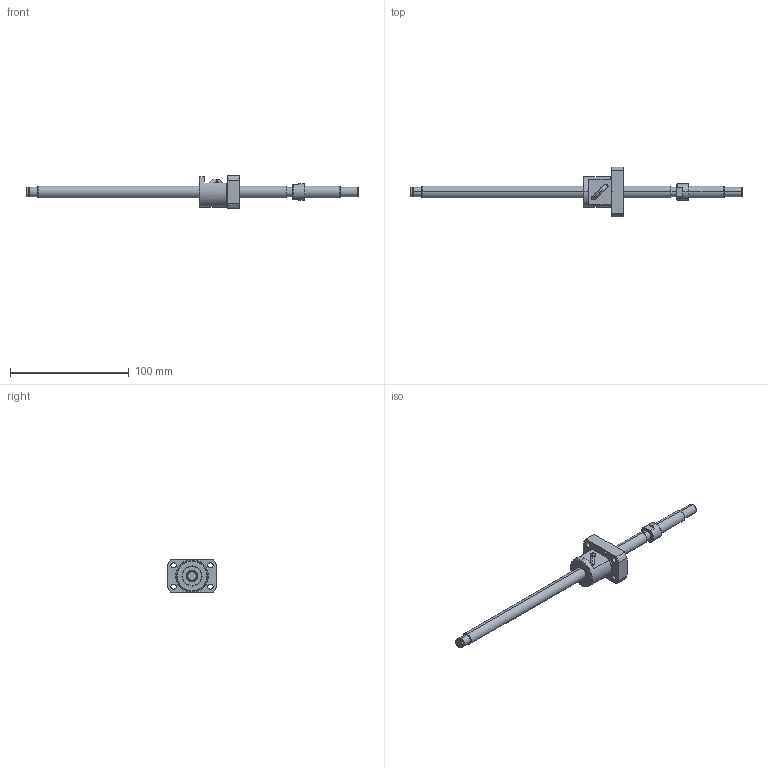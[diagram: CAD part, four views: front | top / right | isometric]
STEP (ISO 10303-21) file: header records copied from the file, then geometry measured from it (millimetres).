
FILE_DESCRIPTION (( 'STEP AP214' ), '1' );
FILE_NAME ('BS1004A-3D.STEP', '2014-03-07T16:54:51', ( '' ), ( '' ), 'SwSTEP 2.0', 'SolidWorks 2012', '' );
FILE_SCHEMA (( 'AUTOMOTIVE_DESIGN' ));
Length unit declared in the file: millimetre
Products named in the file (3): BS1004AŽ²; BS1004Aナット; BS1004A-3D
Assembly tree (2 placements, depth 2):
  BS1004A-3D
    BS1004Aナット
    BS1004AŽ²
Bounding box: 280 x 42 x 28 mm (x, y, z)
Volume: 39951 mm3; surface area: 17992.2 mm2
Topology: 5 solids, 5 shells, 163 faces, 404 edges, 261 vertices
Faces by surface type: cylinder 78, plane 45, cone 34, torus 4, bspline 2
Entity records: 6213 total; most frequent: CARTESIAN_POINT 2077, DIRECTION 860, ORIENTED_EDGE 804, EDGE_CURVE 402, AXIS2_PLACEMENT_3D 362, VERTEX_POINT 261, EDGE_LOOP 199, CIRCLE 196
